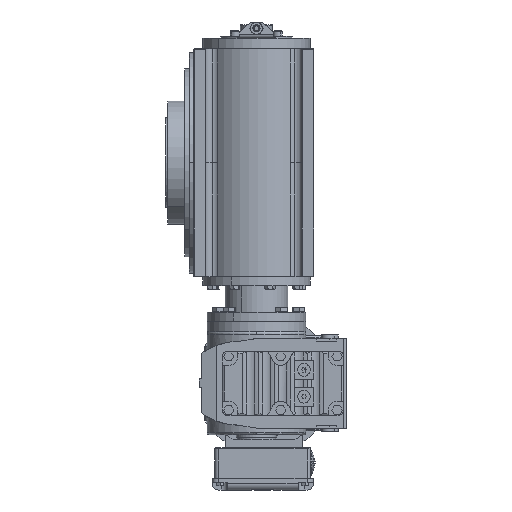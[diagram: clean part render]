
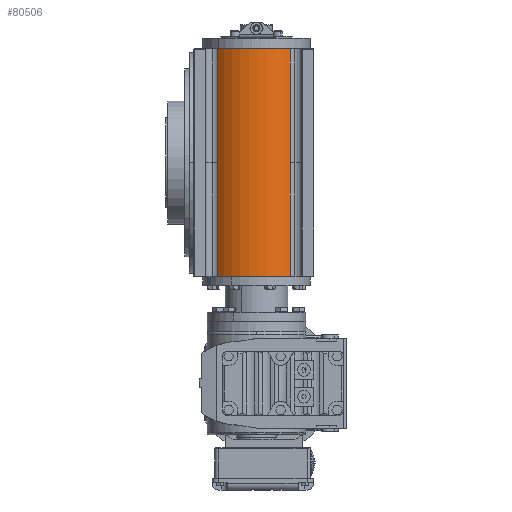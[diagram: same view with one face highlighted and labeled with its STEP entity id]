
A CAD part, left-side view. The second image highlights one B-rep face of the part: STEP entity #80506.
In plain terms, the highlighted cylindrical face has radius 60 mm (diameter 120 mm), a partial arc.
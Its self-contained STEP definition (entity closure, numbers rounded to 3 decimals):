
#381 = CARTESIAN_POINT ( 'NONE',  ( -131.481, 26.059, 0. ) ) ;
#1158 = EDGE_CURVE ( 'NONE', #42107, #73262, #65698, .T. ) ;
#2271 = CARTESIAN_POINT ( 'NONE',  ( -131.481, 26.059, -121.981 ) ) ;
#2912 = EDGE_CURVE ( 'NONE', #53698, #76975, #22561, .T. ) ;
#3465 = DIRECTION ( 'NONE',  ( -1., 0., 0. ) ) ;
#3519 = CARTESIAN_POINT ( 'NONE',  ( -126.602, 107.235, 0. ) ) ;
#8214 = VERTEX_POINT ( 'NONE', #381 ) ;
#9872 = DIRECTION ( 'NONE',  ( 0., 0., -1. ) ) ;
#15586 = CARTESIAN_POINT ( 'NONE',  ( -126.602, 107.235, -121.981 ) ) ;
#17479 = DIRECTION ( 'NONE',  ( 0., 0., 1. ) ) ;
#17550 = EDGE_CURVE ( 'NONE', #53285, #8214, #45724, .T. ) ;
#18287 = EDGE_CURVE ( 'NONE', #8214, #73262, #36332, .T. ) ;
#20155 = DIRECTION ( 'NONE',  ( 0., 0., -1. ) ) ;
#20628 = CARTESIAN_POINT ( 'NONE',  ( -126.602, 107.235, -127. ) ) ;
#21173 = EDGE_CURVE ( 'NONE', #53285, #76975, #36310, .T. ) ;
#21776 = DIRECTION ( 'NONE',  ( 1., 0., 0. ) ) ;
#22561 = LINE ( 'NONE', #15586, #39355 ) ;
#23974 = EDGE_LOOP ( 'NONE', ( #56339, #26361, #54002, #79115, #51668, #74651 ) ) ;
#24382 = VECTOR ( 'NONE', #27620, 1000. ) ;
#26283 = CARTESIAN_POINT ( 'NONE',  ( -131.481, 26.059, 127. ) ) ;
#26361 = ORIENTED_EDGE ( 'NONE', *, *, #18287, .T. ) ;
#27620 = DIRECTION ( 'NONE',  ( 0., 0., 1. ) ) ;
#31409 = DIRECTION ( 'NONE',  ( 1., 0., 0. ) ) ;
#31818 = CARTESIAN_POINT ( 'NONE',  ( -85., 64., 127. ) ) ;
#36310 = CIRCLE ( 'NONE', #79566, 60. ) ;
#36332 = LINE ( 'NONE', #62099, #65157 ) ;
#39355 = VECTOR ( 'NONE', #9872, 1000. ) ;
#40322 = DIRECTION ( 'NONE',  ( 0., 0., 1. ) ) ;
#42075 = DIRECTION ( 'NONE',  ( 0., 0., 1. ) ) ;
#42107 = VERTEX_POINT ( 'NONE', #47044 ) ;
#43676 = AXIS2_PLACEMENT_3D ( 'NONE', #64035, #40322, #21776 ) ;
#45724 = LINE ( 'NONE', #2271, #24382 ) ;
#47044 = CARTESIAN_POINT ( 'NONE',  ( -126.602, 107.235, 127. ) ) ;
#48663 = AXIS2_PLACEMENT_3D ( 'NONE', #31818, #17479, #31409 ) ;
#50931 = CYLINDRICAL_SURFACE ( 'NONE', #43676, 60. ) ;
#51433 = CARTESIAN_POINT ( 'NONE',  ( -85., 64., -127. ) ) ;
#51668 = ORIENTED_EDGE ( 'NONE', *, *, #2912, .T. ) ;
#52915 = CARTESIAN_POINT ( 'NONE',  ( -126.602, 107.235, -121.981 ) ) ;
#53285 = VERTEX_POINT ( 'NONE', #78476 ) ;
#53698 = VERTEX_POINT ( 'NONE', #3519 ) ;
#54002 = ORIENTED_EDGE ( 'NONE', *, *, #1158, .F. ) ;
#55226 = VECTOR ( 'NONE', #20155, 1000. ) ;
#55880 = FACE_OUTER_BOUND ( 'NONE', #23974, .T. ) ;
#56339 = ORIENTED_EDGE ( 'NONE', *, *, #17550, .T. ) ;
#62099 = CARTESIAN_POINT ( 'NONE',  ( -131.481, 26.059, -121.981 ) ) ;
#64035 = CARTESIAN_POINT ( 'NONE',  ( -85., 64., -121.981 ) ) ;
#65157 = VECTOR ( 'NONE', #42075, 1000. ) ;
#65698 = CIRCLE ( 'NONE', #48663, 60. ) ;
#73262 = VERTEX_POINT ( 'NONE', #26283 ) ;
#74651 = ORIENTED_EDGE ( 'NONE', *, *, #21173, .F. ) ;
#76482 = LINE ( 'NONE', #52915, #55226 ) ;
#76604 = DIRECTION ( 'NONE',  ( 0., 0., -1. ) ) ;
#76975 = VERTEX_POINT ( 'NONE', #20628 ) ;
#78476 = CARTESIAN_POINT ( 'NONE',  ( -131.481, 26.059, -127. ) ) ;
#79115 = ORIENTED_EDGE ( 'NONE', *, *, #79838, .T. ) ;
#79566 = AXIS2_PLACEMENT_3D ( 'NONE', #51433, #76604, #3465 ) ;
#79838 = EDGE_CURVE ( 'NONE', #42107, #53698, #76482, .T. ) ;
#80506 = ADVANCED_FACE ( 'NONE', ( #55880 ), #50931, .T. ) ;
